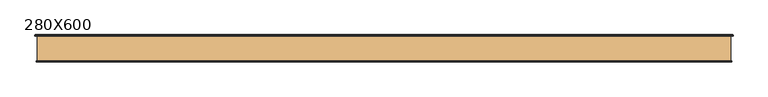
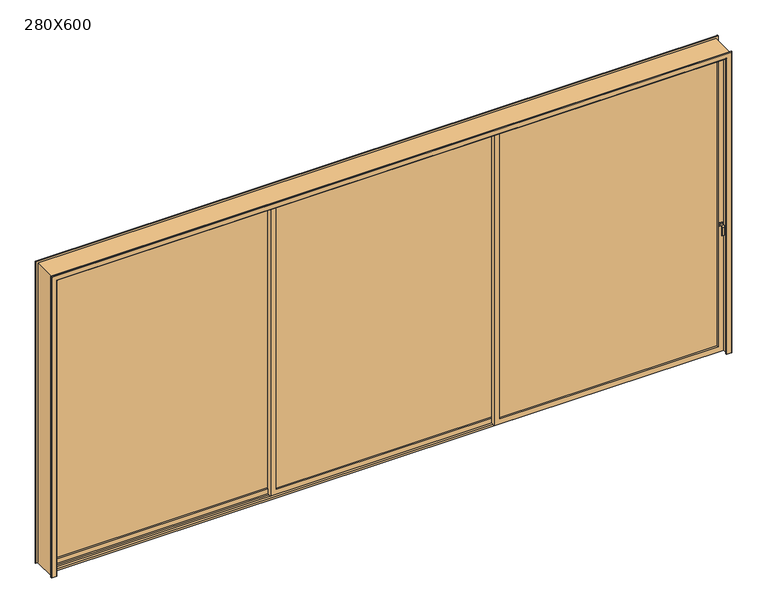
"""IFC4 building model written with IfcOpenShell, lengths in millimetres: door geometry, porta de correr uma direção : 280X600."""

from ifc_helpers import new_model, si_unit, point, frame, frame_2d, origin, place, context, project, spatial, polyline, circle_curve, ellipse_curve, trimmed, segment, composite_curve, outline, extrude, source, transform, mapped, element, save
from ifc_brep_helpers import plane_surface, cylinder_surface, advanced_brep


def door_280x600_c2e8b364(model_context):
    return source(origin(), model_context, "Body", "SolidModel", [
        extrude(outline(composite_curve([segment(polyline([(-65.0, 1202.2993755), (-65.0, 1198.1441784), (-83.2817948, 1198.1441784)]), True, "CONTINUOUS"), segment(trimmed(circle_curve(frame_2d((-83.2817948, 1188.2817948)), 9.8623836), [point((-83.2817948, 1198.1441784))], [point((-93.1441784, 1188.2817948))], True, "CARTESIAN"), True, "CONTINUOUS"), segment(polyline([(-93.1441784, 1188.2817948), (-93.1441784, 1113.2817948), (-97.2993755, 1113.2817948), (-97.2993755, 1188.2817948)]), True, "CONTINUOUS"), segment(trimmed(circle_curve(frame_2d((-83.2817948, 1188.2817948)), 14.0175808), [point((-97.2993755, 1188.2817948))], [point((-83.2817948, 1202.2993755))], False, "CARTESIAN"), True, "CONTINUOUS"), segment(polyline([(-83.2817948, 1202.2993755), (-65.0, 1202.2993755)]), True, "CONTINUOUS")], self_intersect=False)), frame((2964.7783411, 0.0, 0.0), z_axis=(1.0, 0.0, 0.0), x_axis=(0.0, 1.0, 0.0)), (0.0, 0.0, 1.0), 21.25),
        extrude(outline(polyline([(2990.0, -65.0), (2960.0, -65.0), (2960.0, -60.0), (2990.0, -60.0), (2990.0, -65.0)])), frame((0.0, 0.0, 1185.0), z_axis=(0.0, 0.0, 1.0), x_axis=(1.0, 0.0, 0.0)), (0.0, 0.0, 1.0), 30.0),
        extrude(outline(polyline([(2950.0, -35.0), (2950.0, -45.0), (1000.0, -45.0), (1000.0, -35.0), (2950.0, -35.0)])), frame((0.0, 0.0, 50.0), z_axis=(0.0, 0.0, 1.0), x_axis=(1.0, 0.0, 0.0)), (0.0, 0.0, 1.0), 2700.0),
        extrude(outline(polyline([(2800.0, 3000.0), (2800.0, 950.0), (0.0, 950.0), (0.0, 3000.0), (2800.0, 3000.0)]), holes=[polyline([(2750.0, 2950.0), (50.0, 2950.0), (50.0, 1000.0), (2750.0, 1000.0), (2750.0, 2950.0)])]), frame((0.0, -60.0, 0.0), z_axis=(0.0, 1.0, 0.0), x_axis=(0.0, 0.0, 1.0)), (0.0, 0.0, 1.0), 40.0),
        extrude(outline(polyline([(975.0, 5.0), (975.0, -5.0), (-975.0, -5.0), (-975.0, 5.0), (975.0, 5.0)])), frame((0.0, 0.0, 50.0), z_axis=(0.0, 0.0, 1.0), x_axis=(1.0, 0.0, 0.0)), (0.0, 0.0, 1.0), 2700.0),
        extrude(outline(polyline([(2800.0, 1025.0), (2800.0, -1025.0), (0.0, -1025.0), (0.0, 1025.0), (2800.0, 1025.0)]), holes=[polyline([(2750.0, 975.0), (50.0, 975.0), (50.0, -975.0), (2750.0, -975.0), (2750.0, 975.0)])]), frame((0.0, -20.0, 0.0), z_axis=(0.0, 1.0, 0.0), x_axis=(0.0, 0.0, 1.0)), (0.0, 0.0, 1.0), 40.0),
        extrude(outline(polyline([(-1000.0, 45.0), (-1000.0, 35.0), (-2950.0, 35.0), (-2950.0, 45.0), (-1000.0, 45.0)])), frame((0.0, 0.0, 50.0), z_axis=(0.0, 0.0, 1.0), x_axis=(1.0, 0.0, 0.0)), (0.0, 0.0, 1.0), 2700.0),
        extrude(outline(polyline([(2800.0, -950.0), (2800.0, -3000.0), (0.0, -3000.0), (0.0, -950.0), (2800.0, -950.0)]), holes=[polyline([(2750.0, -1000.0), (50.0, -1000.0), (50.0, -2950.0), (2750.0, -2950.0), (2750.0, -1000.0)])]), frame((0.0, 20.0, 0.0), z_axis=(0.0, 1.0, 0.0), x_axis=(0.0, 0.0, 1.0)), (0.0, 0.0, 1.0), 40.0),
        advanced_brep(
        [(-3040.0, -110.0, 0.0), (-2990.0, -110.0, 0.0), (-2990.0, -115.0, 0.0), (-2995.0, -120.0, 0.0), (-3035.0, -120.0, 0.0), (-3040.0, -115.0, 0.0), (-3040.0, -110.0, 2840.0), (3040.0, -110.0, 2840.0), (3040.0, -110.0, 0.0), (2990.0, -110.0, 0.0), (2990.0, -110.0, 2790.0), (-2990.0, -110.0, 2790.0), (-2990.0, -115.0, 2790.0), (-2995.0, -120.0, 2795.0), (2995.0, -120.0, 2795.0), (2995.0, -120.0, 0.0), (3035.0, -120.0, 0.0), (3035.0, -120.0, 2835.0), (-3035.0, -120.0, 2835.0), (-3040.0, -115.0, 2840.0), (3040.0, -115.0, 2840.0), (3040.0, -115.0, 0.0), (2990.0, -115.0, 0.0), (2990.0, -115.0, 2790.0)],
        [
            (0, 1),
            (1, 2),
            (2, 3, circle_curve(frame((-2995.0, -115.0, 0.0), z_axis=(0.0, 0.0, -1.0), x_axis=(0.0, -1.0, 0.0)), 5.0)),
            (3, 4),
            (4, 5, circle_curve(frame((-3035.0, -115.0, 0.0), z_axis=(0.0, 0.0, -1.0), x_axis=(0.0, -1.0, 0.0)), 5.0)),
            (5, 0),
            (0, 6),
            (6, 7),
            (7, 8),
            (8, 9),
            (9, 10),
            (10, 11),
            (11, 1),
            (11, 12),
            (12, 2),
            (12, 13, ellipse_curve(frame((-2995.0, -115.0, 2795.0), z_axis=(-0.7071067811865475, 0.0, -0.7071067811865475), x_axis=(0.7071067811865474, 0.0, -0.7071067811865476)), 7.0710678, 5.0)),
            (13, 3),
            (13, 14),
            (14, 15),
            (15, 16),
            (16, 17),
            (17, 18),
            (18, 4),
            (18, 19, ellipse_curve(frame((-3035.0, -115.0, 2835.0), z_axis=(-0.7071067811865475, 0.0, -0.7071067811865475), x_axis=(0.7071067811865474, 0.0, -0.7071067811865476)), 7.0710678, 5.0)),
            (19, 5),
            (19, 6),
            (7, 20),
            (20, 21),
            (21, 8),
            (21, 16, circle_curve(frame((3035.0, -115.0, 0.0), z_axis=(0.0, 0.0, -1.0), x_axis=(0.0, -1.0, 0.0)), 5.0)),
            (15, 22, circle_curve(frame((2995.0, -115.0, 0.0), z_axis=(0.0, 0.0, -1.0), x_axis=(0.0, -1.0, 0.0)), 5.0)),
            (22, 9),
            (23, 10),
            (22, 23),
            (14, 23, ellipse_curve(frame((2995.0, -115.0, 2795.0), z_axis=(0.7071067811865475, 0.0, -0.7071067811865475), x_axis=(0.7071067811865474, 0.0, 0.7071067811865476)), 7.0710678, 5.0)),
            (20, 17, ellipse_curve(frame((3035.0, -115.0, 2835.0), z_axis=(0.7071067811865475, 0.0, -0.7071067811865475), x_axis=(0.7071067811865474, 0.0, 0.7071067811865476)), 7.0710678, 5.0)),
            (19, 20),
            (23, 12),
        ],
        [
            plane_surface(frame((-3030.0, -110.0, 0.0), z_axis=(0.0, 0.0, -1.0), x_axis=(0.0, -1.0, 0.0))),
            plane_surface(frame((-3040.0, -110.0, 0.0), z_axis=(0.0, 1.0, 0.0), x_axis=(0.0, 0.0, 1.0))),
            plane_surface(frame((-2990.0, -110.0, 0.0), z_axis=(1.0, 0.0, 0.0), x_axis=(0.0, 0.0, 1.0))),
            cylinder_surface(frame((-2995.0, -115.0, 0.0), z_axis=(0.0, 0.0, -1.0), x_axis=(0.0, -1.0, 0.0)), 5.0),
            plane_surface(frame((-2995.0, -120.0, 0.0), z_axis=(0.0, -1.0, 0.0), x_axis=(0.0, 0.0, 1.0))),
            cylinder_surface(frame((-3035.0, -115.0, 0.0), z_axis=(0.0, 0.0, -1.0), x_axis=(0.0, -1.0, 0.0)), 5.0),
            plane_surface(frame((-3040.0, -115.0, 0.0), z_axis=(-1.0, 0.0, 0.0), x_axis=(0.0, 0.0, 1.0))),
            plane_surface(frame((3040.0, -115.0, 2840.0), z_axis=(1.0, 0.0, 0.0), x_axis=(0.0, 0.0, -1.0))),
            plane_surface(frame((3030.0, -110.0, 0.0), z_axis=(0.0, 0.0, -1.0), x_axis=(0.0, -1.0, 0.0))),
            plane_surface(frame((2990.0, -110.0, 2790.0), z_axis=(-1.0, 0.0, 0.0), x_axis=(0.0, 0.0, -1.0))),
            cylinder_surface(frame((2995.0, -115.0, 2830.0), z_axis=(0.0, 0.0, 1.0), x_axis=(0.0, -1.0, 0.0)), 5.0),
            cylinder_surface(frame((3035.0, -115.0, 2830.0), z_axis=(0.0, 0.0, 1.0), x_axis=(0.0, -1.0, 0.0)), 5.0),
            plane_surface(frame((-3040.0, -115.0, 2840.0), z_axis=(0.0, 0.0, 1.0), x_axis=(1.0, 0.0, 0.0))),
            plane_surface(frame((-2990.0, -110.0, 2790.0), z_axis=(0.0, 0.0, -1.0), x_axis=(1.0, 0.0, 0.0))),
            cylinder_surface(frame((-3030.0, -115.0, 2795.0), z_axis=(-1.0, 0.0, 0.0), x_axis=(0.0, -1.0, 0.0)), 5.0),
            cylinder_surface(frame((-3030.0, -115.0, 2835.0), z_axis=(-1.0, 0.0, 0.0), x_axis=(0.0, -1.0, 0.0)), 5.0),
        ],
        [
            (0, [[1, 2, 3, 4, 5, 6]]),
            (1, [[-1, 7, 8, 9, 10, 11, 12, 13]]),
            (2, [[-2, -13, 14, 15]]),
            (3, [[-3, -15, 16, 17]]),
            (4, [[-4, -17, 18, 19, 20, 21, 22, 23]]),
            (5, [[-5, -23, 24, 25]]),
            (6, [[-6, -25, 26, -7]]),
            (7, [[27, 28, 29, -9]]),
            (8, [[-29, 30, -20, 31, 32, -10]]),
            (9, [[33, -11, -32, 34]]),
            (10, [[35, -34, -31, -19]]),
            (11, [[36, -21, -30, -28]]),
            (12, [[-26, 37, -27, -8]]),
            (13, [[-14, -12, -33, 38]]),
            (14, [[-16, -38, -35, -18]]),
            (15, [[-24, -22, -36, -37]]),
        ],
    ),
        advanced_brep(
        [(3050.0, 110.0, 0.0), (2995.0, 110.0, 0.0), (2995.0, 115.0, 0.0), (3000.0, 120.0, 0.0), (3044.1699538, 120.0, 0.0), (3050.0, 114.1699538, 0.0), (3050.0, 110.0, 2850.0), (-3050.0, 110.0, 2850.0), (-3050.0, 110.0, 0.0), (-2995.0, 110.0, 0.0), (-2995.0, 110.0, 2795.0), (2995.0, 110.0, 2795.0), (2995.0, 115.0, 2795.0), (3000.0, 120.0, 2800.0), (-3000.0, 120.0, 2800.0), (-3000.0, 120.0, 0.0), (-3044.1699538, 120.0, 0.0), (-3044.1699538, 120.0, 2844.1699538), (3044.1699538, 120.0, 2844.1699538), (3050.0, 114.1699538, 2850.0), (-3050.0, 114.1699538, 2850.0), (-3050.0, 114.1699538, 0.0), (-2995.0, 115.0, 0.0), (-2995.0, 115.0, 2795.0)],
        [
            (0, 1),
            (1, 2),
            (2, 3, circle_curve(frame((3000.0, 115.0, 0.0), z_axis=(0.0, 0.0, -1.0), x_axis=(0.0, -1.0, 0.0)), 5.0)),
            (3, 4),
            (4, 5, circle_curve(frame((3044.1699538, 114.1699538, 0.0), z_axis=(0.0, 0.0, -1.0), x_axis=(0.0, -1.0, 0.0)), 5.8300462)),
            (5, 0),
            (0, 6),
            (6, 7),
            (7, 8),
            (8, 9),
            (9, 10),
            (10, 11),
            (11, 1),
            (11, 12),
            (12, 2),
            (12, 13, ellipse_curve(frame((3000.0, 115.0, 2800.0), z_axis=(0.7071067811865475, 0.0, -0.7071067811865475), x_axis=(-0.7071067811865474, 0.0, -0.7071067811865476)), 7.0710678, 5.0)),
            (13, 3),
            (13, 14),
            (14, 15),
            (15, 16),
            (16, 17),
            (17, 18),
            (18, 4),
            (18, 19, ellipse_curve(frame((3044.1699538, 114.1699538, 2844.1699538), z_axis=(0.7071067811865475, 0.0, -0.7071067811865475), x_axis=(-0.7071067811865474, 0.0, -0.7071067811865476)), 8.2449304, 5.8300462)),
            (19, 5),
            (19, 6),
            (7, 20),
            (20, 21),
            (21, 8),
            (21, 16, circle_curve(frame((-3044.1699538, 114.1699538, 0.0), z_axis=(0.0, 0.0, -1.0), x_axis=(0.0, -1.0, 0.0)), 5.8300462)),
            (15, 22, circle_curve(frame((-3000.0, 115.0, 0.0), z_axis=(0.0, 0.0, -1.0), x_axis=(0.0, -1.0, 0.0)), 5.0)),
            (22, 9),
            (23, 10),
            (22, 23),
            (14, 23, ellipse_curve(frame((-3000.0, 115.0, 2800.0), z_axis=(-0.7071067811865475, 0.0, -0.7071067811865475), x_axis=(-0.7071067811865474, 0.0, 0.7071067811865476)), 7.0710678, 5.0)),
            (20, 17, ellipse_curve(frame((-3044.1699538, 114.1699538, 2844.1699538), z_axis=(-0.7071067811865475, 0.0, -0.7071067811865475), x_axis=(-0.7071067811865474, 0.0, 0.7071067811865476)), 8.2449304, 5.8300462)),
            (19, 20),
            (23, 12),
        ],
        [
            plane_surface(frame((3030.0, 110.0, 0.0), z_axis=(0.0, 0.0, -1.0), x_axis=(0.0, -1.0, 0.0))),
            plane_surface(frame((3050.0, 110.0, 0.0), z_axis=(0.0, -1.0, 0.0), x_axis=(0.0, 0.0, 1.0))),
            plane_surface(frame((2995.0, 110.0, 0.0), z_axis=(-1.0, 0.0, 0.0), x_axis=(0.0, 0.0, 1.0))),
            cylinder_surface(frame((3000.0, 115.0, 0.0), z_axis=(0.0, 0.0, -1.0), x_axis=(0.0, -1.0, 0.0)), 5.0),
            plane_surface(frame((3000.0, 120.0, 0.0), z_axis=(0.0, 1.0, 0.0), x_axis=(0.0, 0.0, 1.0))),
            cylinder_surface(frame((3044.1699538, 114.1699538, 0.0), z_axis=(0.0, 0.0, -1.0), x_axis=(0.0, -1.0, 0.0)), 5.8300462),
            plane_surface(frame((3050.0, 114.1699538, 0.0), z_axis=(1.0, 0.0, 0.0), x_axis=(0.0, 0.0, 1.0))),
            plane_surface(frame((-3050.0, 114.1699538, 2850.0), z_axis=(-1.0, 0.0, 0.0), x_axis=(0.0, 0.0, -1.0))),
            plane_surface(frame((-3030.0, 110.0, 0.0), z_axis=(0.0, 0.0, -1.0), x_axis=(0.0, -1.0, 0.0))),
            plane_surface(frame((-2995.0, 110.0, 2795.0), z_axis=(1.0, 0.0, 0.0), x_axis=(0.0, 0.0, -1.0))),
            cylinder_surface(frame((-3000.0, 115.0, 2830.0), z_axis=(0.0, 0.0, 1.0), x_axis=(0.0, -1.0, 0.0)), 5.0),
            cylinder_surface(frame((-3044.1699538, 114.1699538, 2830.0), z_axis=(0.0, 0.0, 1.0), x_axis=(0.0, -1.0, 0.0)), 5.8300462),
            plane_surface(frame((3050.0, 114.1699538, 2850.0), z_axis=(0.0, 0.0, 1.0), x_axis=(-1.0, 0.0, 0.0))),
            plane_surface(frame((2995.0, 110.0, 2795.0), z_axis=(0.0, 0.0, -1.0), x_axis=(-1.0, 0.0, 0.0))),
            cylinder_surface(frame((3030.0, 115.0, 2800.0), z_axis=(1.0, 0.0, 0.0), x_axis=(0.0, -1.0, 0.0)), 5.0),
            cylinder_surface(frame((3030.0, 114.1699538, 2844.1699538), z_axis=(1.0, 0.0, 0.0), x_axis=(0.0, -1.0, 0.0)), 5.8300462),
        ],
        [
            (0, [[1, 2, 3, 4, 5, 6]]),
            (1, [[-1, 7, 8, 9, 10, 11, 12, 13]]),
            (2, [[-2, -13, 14, 15]]),
            (3, [[-3, -15, 16, 17]]),
            (4, [[-4, -17, 18, 19, 20, 21, 22, 23]]),
            (5, [[-5, -23, 24, 25]]),
            (6, [[-6, -25, 26, -7]]),
            (7, [[27, 28, 29, -9]]),
            (8, [[-29, 30, -20, 31, 32, -10]]),
            (9, [[33, -11, -32, 34]]),
            (10, [[35, -34, -31, -19]]),
            (11, [[36, -21, -30, -28]]),
            (12, [[-26, 37, -27, -8]]),
            (13, [[-14, -12, -33, 38]]),
            (14, [[-16, -38, -35, -18]]),
            (15, [[-24, -22, -36, -37]]),
        ],
    ),
        extrude(outline(polyline([(0.0, 3000.0), (0.0, 3030.0), (2830.0, 3030.0), (2830.0, -3030.0), (0.0, -3030.0), (0.0, -3000.0), (2800.0, -3000.0), (2800.0, 3000.0), (0.0, 3000.0)])), frame((0.0, -110.0, 0.0), z_axis=(0.0, 1.0, 0.0), x_axis=(0.0, 0.0, 1.0)), (0.0, 0.0, 1.0), 220.0),
        extrude(outline(polyline([(-3000.0, 110.0), (3000.0, 110.0), (3000.0, -40.0), (-3000.0, -40.0), (-3000.0, 110.0)]), holes=[polyline([(-2978.5714286, 88.5714286), (-2978.5714286, 67.1428571), (2978.5714286, 67.1428571), (2978.5714286, 88.5714286), (-2978.5714286, 88.5714286)]), polyline([(2978.5714286, 45.7142857), (-2978.5714286, 45.7142857), (-2978.5714286, 24.2857143), (2978.5714286, 24.2857143), (2978.5714286, 45.7142857)]), polyline([(-2978.5714286, 2.8571429), (-2978.5714286, -18.5714286), (2978.5714286, -18.5714286), (2978.5714286, 2.8571429), (-2978.5714286, 2.8571429)])]), frame((0.0, 0.0, -15.0), z_axis=(0.0, 0.0, 1.0), x_axis=(1.0, 0.0, 0.0)), (0.0, 0.0, 1.0), 20.0),
    ])


if __name__ == "__main__":
    model = new_model("IFC4")
    model_context = context("Model", 3, world=origin())
    ifc_project = project(units=[si_unit("LENGTHUNIT", "METRE", prefix="MILLI")], contexts=[model_context])
    site = spatial("IfcSite", under=ifc_project)
    building = spatial("IfcBuilding", under=site)
    placement = place(None, origin())
    door_280x600_shape = door_280x600_c2e8b364(model_context)
    element("IfcDoor", 1, ObjectType="porta de correr uma direção : 280X600", at=placement, inside=building, context=model_context, shape_type="MappedRepresentation", body=[
        mapped(door_280x600_shape, transform((0.0, 0.0, 0.0), x_axis=(1.0, 0.0, 0.0), y_axis=(0.0, 1.0, 0.0), z_axis=(0.0, 0.0, 1.0))),
    ])
    save(model, "model.ifc")
